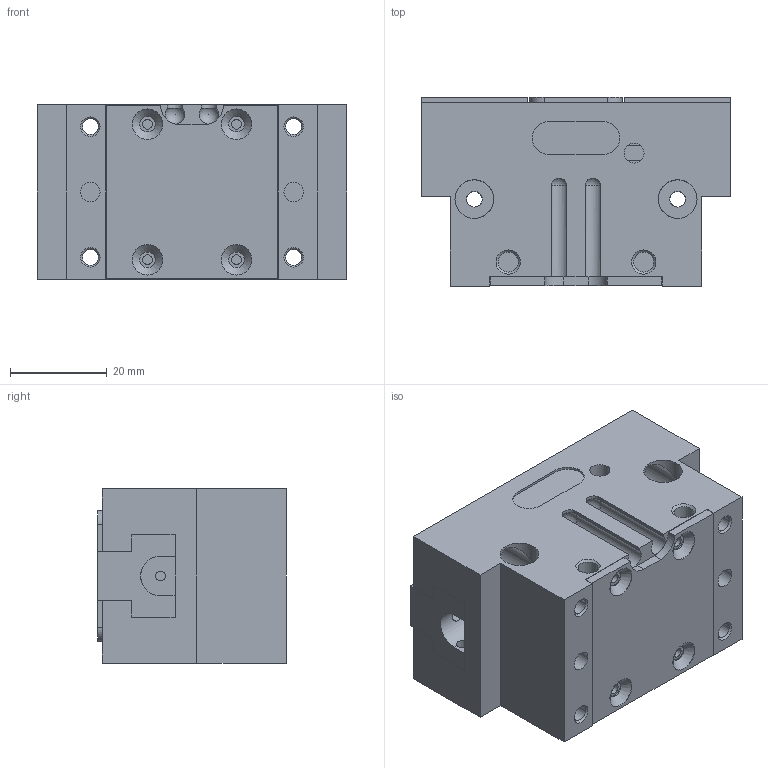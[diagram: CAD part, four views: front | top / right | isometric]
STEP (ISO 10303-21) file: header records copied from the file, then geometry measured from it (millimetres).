
FILE_DESCRIPTION( ( 'STEP AP214' ), '1' );
FILE_NAME( 'C:/Users/ashearer/Desktop/Mindman New CAD/Grippers/MCHS-SD-66_0_.stp', ' ', ( ' ' ), ( ' ' ), 'PSStep 15.0.47', 'PARTsolutions', ' ' );
FILE_SCHEMA( ( 'AUTOMOTIVE_DESIGN { 1 0 10303 214 1 1 1 1 }' ) );
Length unit declared in the file: millimetre
Products named in the file (4): MCHS-SD-66(0); _MCHS-SD-66(dummy_0); _MCHS-SD-66_body; _MCHS-SD-66_finger
Assembly tree (4 placements, depth 2):
  MCHS-SD-66(0)
    _MCHS-SD-66(dummy_0)
    _MCHS-SD-66_body
    _MCHS-SD-66_finger  x2
Bounding box: 64 x 39 x 36 mm (x, y, z)
Volume: 67994.5 mm3; surface area: 26252.6 mm2
Topology: 3 solids, 3 shells, 289 faces, 710 edges, 453 vertices
Faces by surface type: plane 177, cylinder 78, cone 32, sphere 2
Full cylindrical faces by diameter (mm): 2.013 x10, 2.5 x4, 3.2 x4, 3.242 x12, 4 x4, 4.134 x6, 6 x4, 6.3 x4, 8 x8
Entity records: 8490 total; most frequent: CARTESIAN_POINT 1342, DIRECTION 1108, ORIENTED_EDGE 926, EDGE_CURVE 463, AXIS2_PLACEMENT_3D 414, EDGE_LOOP 372, VERTEX_POINT 343, FACE_OUTER_BOUND 282
